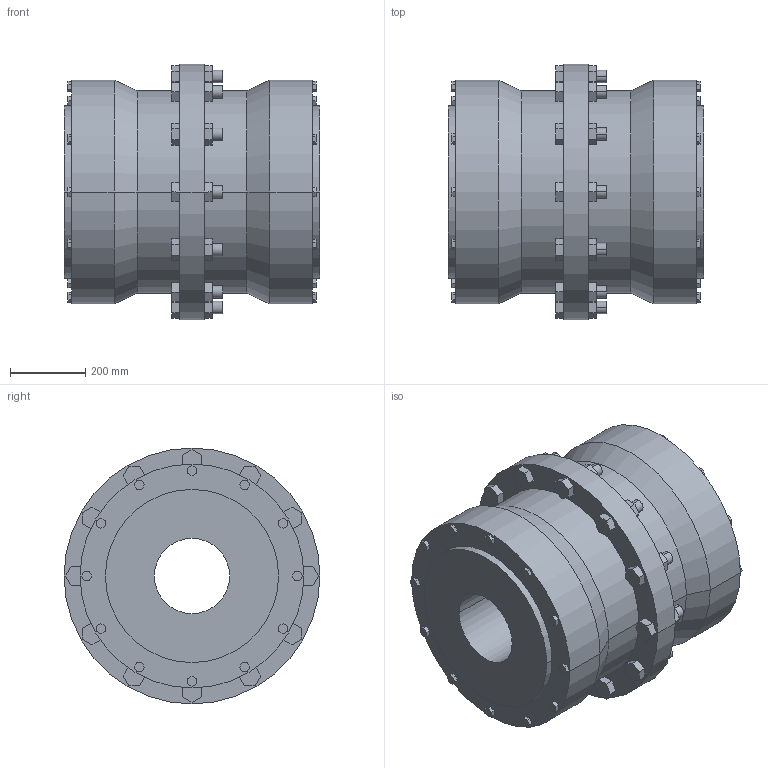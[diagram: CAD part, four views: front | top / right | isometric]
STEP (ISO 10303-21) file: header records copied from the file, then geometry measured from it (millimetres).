
FILE_DESCRIPTION((''),'2;1');
FILE_NAME('A18986400-0_ASM','2018-09-26T',('AB_Roschiwal'),('RENK AG'),'PRO/ENGINEER BY PARAMETRIC TECHNOLOGY CORPORATION, 2015440','PRO/ENGINEER BY PARAMETRIC TECHNOLOGY CORPORATION, 2015440','');
FILE_SCHEMA(('CONFIG_CONTROL_DESIGN'));
Length unit declared in the file: millimetre
Products named in the file (3): SBK280_GEHAEUSE; SBK280_NABE; A18986400-0_ASM
Assembly tree (3 placements, depth 2):
  A18986400-0_ASM
    SBK280_GEHAEUSE
    SBK280_NABE  x2
Bounding box: 680 x 680 x 680 mm (x, y, z)
Volume: 145367657.5 mm3; surface area: 4815267.6 mm2
Topology: 3 solids, 3 shells, 422 faces, 1036 edges, 688 vertices
Faces by surface type: plane 362, cylinder 56, cone 4
Entity records: 12052 total; most frequent: CARTESIAN_POINT 2100, ORIENTED_EDGE 2024, DIRECTION 1940, EDGE_CURVE 1012, VECTOR 916, LINE 916, VERTEX_POINT 672, AXIS2_PLACEMENT_3D 512
